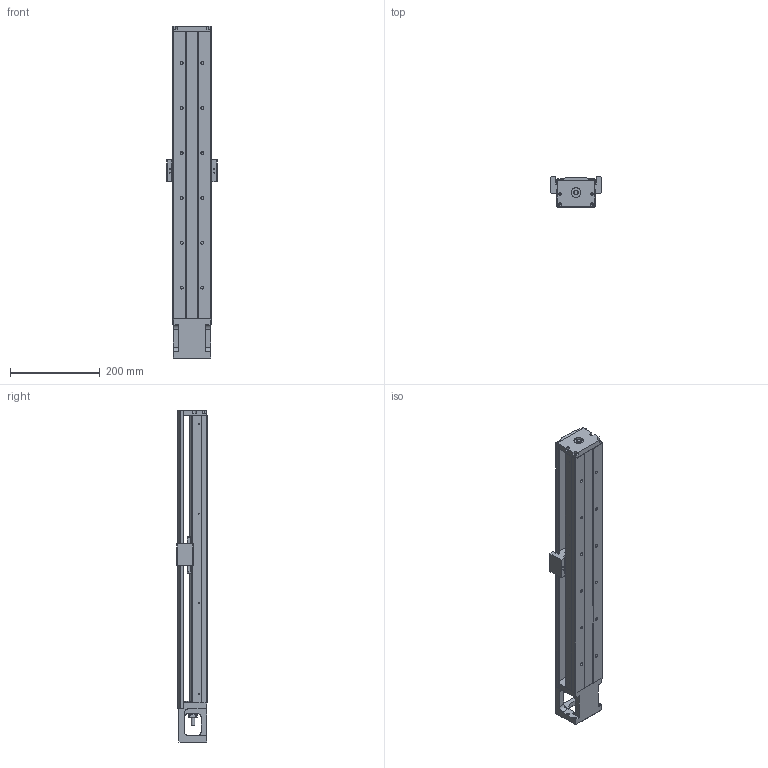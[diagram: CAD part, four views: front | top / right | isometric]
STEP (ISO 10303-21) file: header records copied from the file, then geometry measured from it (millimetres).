
FILE_DESCRIPTION(/* description */ (''),/* implementation_level */ '2;1');
FILE_NAME(/* name */ 'KP46S-640-C.stp',/* time_stamp */ '2020-06-05T10:35:51+08:00',/* author */ (''),/* organization */ (''),/* preprocessor_version */ 'ST-DEVELOPER v14',/* originating_system */ 'SIEMENS PLM Software NX 8.0',/* authorisation */ '');
FILE_SCHEMA (('AUTOMOTIVE_DESIGN { 1 0 10303 214 3 1 1 1 }'));
Length unit declared in the file: millimetre
Products named in the file (1): model1
Bounding box: 112 x 68 x 740 mm (x, y, z)
Volume: 1855210 mm3; surface area: 486266.5 mm2
Topology: 7 solids, 18 shells, 719 faces, 1883 edges, 1243 vertices
Faces by surface type: plane 340, cylinder 258, cone 60, bspline 53, torus 8
Full cylindrical faces by diameter (mm): 2 x2, 2.11 x2, 2.15 x8, 2.42 x6, 2.5 x4, 3 x4, 3.2 x4, 3.3 x12, 3.4 x8, 4 x6, 4.2 x4, 4.5 x8, 5 x8, 6 x8, 6.35 x2, 6.6 x12, 6.7 x2, 8 x1, 8.7 x4, 9.6 x1, 10 x3, 11 x12, 12 x1, 14.95 x2, 15 x1, 16 x2, 22 x3, 27.5 x1, 44 x1, 50 x1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
Entity records: 32584 total; most frequent: CARTESIAN_POINT 13516, ORIENTED_EDGE 3244, DIRECTION 3138, EDGE_CURVE 1622, VERTEX_POINT 1167, AXIS2_PLACEMENT_3D 1165, EDGE_LOOP 1015, LINE 808
